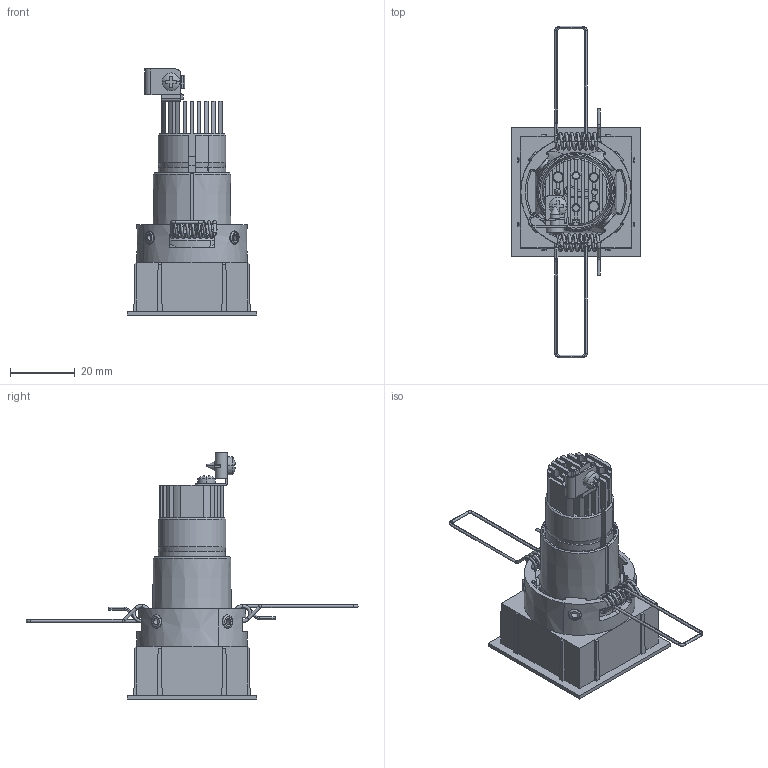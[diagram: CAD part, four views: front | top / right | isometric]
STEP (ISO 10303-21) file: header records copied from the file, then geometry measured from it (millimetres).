
FILE_DESCRIPTION((''),'2;1');
FILE_NAME('MOOD-PRO-XS-DG10B_ASM','2020-09-03T',('Administrator'),(''),'PRO/ENGINEER BY PARAMETRIC TECHNOLOGY CORPORATION, 2001280','PRO/ENGINEER BY PARAMETRIC TECHNOLOGY CORPORATION, 2001280','');
FILE_SCHEMA(('CONFIG_CONTROL_DESIGN'));
Length unit declared in the file: millimetre
Products named in the file (28): 3_42252_01_0; 1_42249_00_0; 1_41223_02_0; 1_42251_01_0; 1_42185_00_0; 1_41872_00_0; 1_42186_00_0; 1_42187_00_0; 1_42184_00_0_ASM; 1_34839_00_0; 3_42254_00_0; _1; _2; 1_35498_00_0_ASM; 1_42324_00_0; 1_41529_00_0; PARTBODY_1; PARTBODY_2; PARTBODY_3; 1_42808_00_0_ASM; X_DG10B_00_0_ASM; _X_DG10B; X_DG10B_ASM; CD52961; 26003; 23490; 1_00593_00_0; MOOD-PRO-XS-DG10B_ASM
Assembly tree (33 placements, depth 5):
  MOOD-PRO-XS-DG10B_ASM
    X_DG10B_ASM
      X_DG10B_00_0_ASM
        3_42252_01_0
        1_42249_00_0
        1_41223_02_0
        1_42251_01_0
        1_42184_00_0_ASM
          1_42185_00_0
          1_41872_00_0
          1_42186_00_0
          1_42187_00_0
        1_34839_00_0  x2
        3_42254_00_0
        1_35498_00_0_ASM  x4
          _1
          _2
        1_42324_00_0
        1_41529_00_0
        1_42808_00_0_ASM
          PARTBODY_1
          PARTBODY_2
          PARTBODY_3
      _X_DG10B
    CD52961
    1_42808_00_0_ASM
      PARTBODY_1
      PARTBODY_2
      PARTBODY_3
    26003
    23490
    1_00593_00_0  x2
Bounding box: 40 x 102.79 x 76.2 mm (x, y, z)
Volume: 23302.9 mm3; surface area: 32283 mm2
Topology: 30 solids, 39 shells, 1765 faces, 5367 edges, 3679 vertices
Faces by surface type: plane 952, cylinder 416, bspline 176, cone 112, torus 62, sphere 30, extrusion 12, revolution 5
Entity records: 69393 total; most frequent: CARTESIAN_POINT 30452, ORIENTED_EDGE 8684, DIRECTION 7008, EDGE_CURVE 4376, VERTEX_POINT 2944, VECTOR 2525, LINE 2515, AXIS2_PLACEMENT_3D 2239
